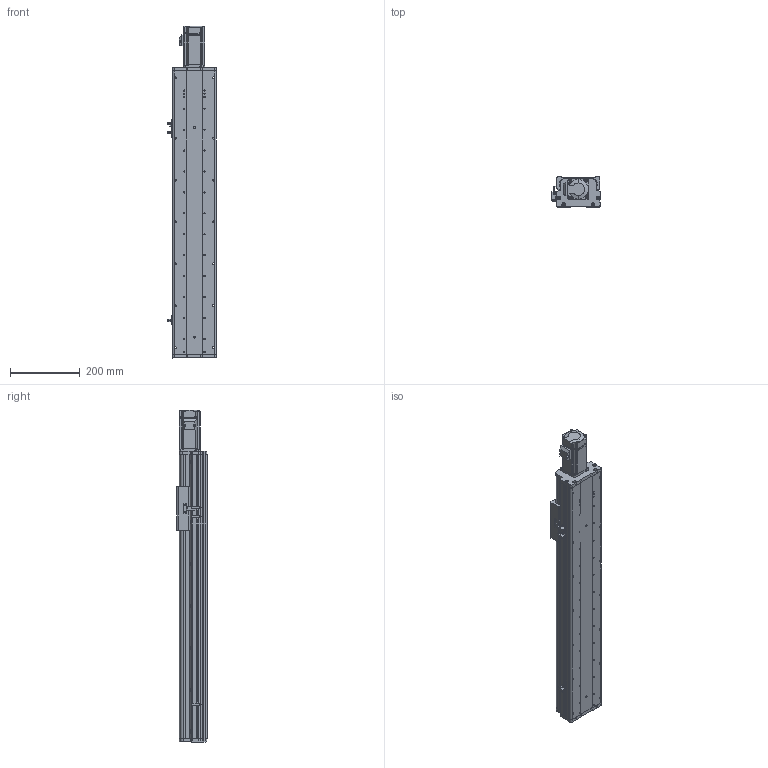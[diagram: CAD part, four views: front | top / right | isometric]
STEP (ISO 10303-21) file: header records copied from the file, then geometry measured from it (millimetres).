
FILE_DESCRIPTION (( 'STEP AP214' ), '1' );
FILE_NAME ('KSD125S-S550-MN-CM.STEP', '2017-08-07T06:13:32', ( '微软用户' ), ( '微软中国' ), 'SwSTEP 2.0', 'SolidWorks 2014', '' );
FILE_SCHEMA (( 'AUTOMOTIVE_DESIGN' ));
Length unit declared in the file: millimetre
Products named in the file (12): 拸萇儂釱滅袉菜; 覜茼え68遵圉猾敕; U倰嫖萇假蚾璃; U倰嫖萇EEㄜSX672; KSD125-賑雄釱1; CS-34X32-10X14; 125-帣傷啣1; KSD125S-S550-MN-CM; KSD125S-550行程丝杆防尘盖-直连不带电机座; KSD125S-550行程丝杆底板-直连不带电机座; 125宽模组 - 直连不带电机座电机安装板; MHMD042G1CA_2_03
Assembly tree (15 placements, depth 2):
  KSD125S-S550-MN-CM
    125-帣傷啣1
    CS-34X32-10X14
    KSD125-賑雄釱1
    U倰嫖萇EEㄜSX672  x3
    U倰嫖萇假蚾璃  x3
    覜茼え68遵圉猾敕
    拸萇儂釱滅袉菜
    MHMD042G1CA_2_03
    125宽模组 - 直连不带电机座电机安装板
    KSD125S-550行程丝杆底板-直连不带电机座
    KSD125S-550行程丝杆防尘盖-直连不带电机座
Bounding box: 138.7 x 86 x 951.5 mm (x, y, z)
Volume: 2787107.6 mm3; surface area: 919897.8 mm2
Topology: 14 solids, 17 shells, 1450 faces, 4197 edges, 2761 vertices
Faces by surface type: cylinder 720, plane 617, cone 91, bspline 22
Entity records: 51042 total; most frequent: CARTESIAN_POINT 10908, DIRECTION 7225, ORIENTED_EDGE 6902, EDGE_CURVE 3529, AXIS2_PLACEMENT_3D 2648, VERTEX_POINT 2353, LINE 1929, VECTOR 1929
